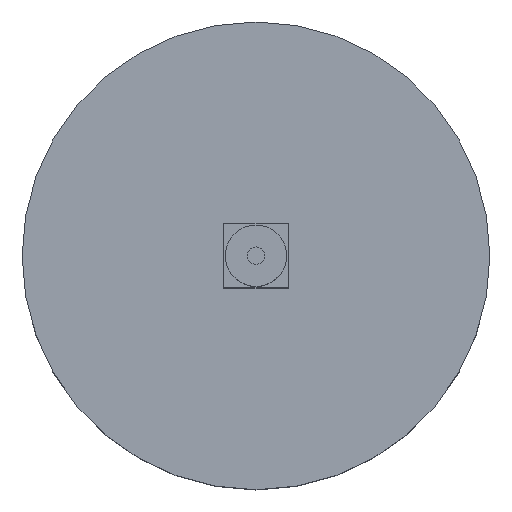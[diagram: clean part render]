
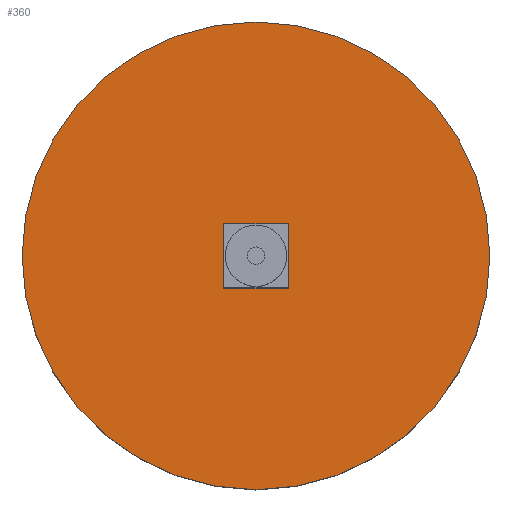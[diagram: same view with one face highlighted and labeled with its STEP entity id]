
A CAD part, top view. The second image highlights one B-rep face of the part: STEP entity #360.
In plain terms, the highlighted planar face has unit normal (0, 0, 1).
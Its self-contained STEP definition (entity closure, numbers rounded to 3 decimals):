
#6 = CARTESIAN_POINT ( 'NONE',  ( 0., 0., 50. ) ) ;
#30 = DIRECTION ( 'NONE',  ( 0., 0., 1. ) ) ;
#33 = CARTESIAN_POINT ( 'NONE',  ( -11., 11., 50. ) ) ;
#40 = CARTESIAN_POINT ( 'NONE',  ( -11., -11., 50. ) ) ;
#41 = DIRECTION ( 'NONE',  ( 1., 0., 0. ) ) ;
#44 = EDGE_CURVE ( 'NONE', #226, #362, #367, .T. ) ;
#51 = LINE ( 'NONE', #420, #81 ) ;
#63 = CARTESIAN_POINT ( 'NONE',  ( -11., 11., 50. ) ) ;
#64 = AXIS2_PLACEMENT_3D ( 'NONE', #6, #71, #344 ) ;
#71 = DIRECTION ( 'NONE',  ( 0., 0., 1. ) ) ;
#75 = CARTESIAN_POINT ( 'NONE',  ( 0., 0., 50. ) ) ;
#76 = DIRECTION ( 'NONE',  ( 1., 0., 0. ) ) ;
#81 = VECTOR ( 'NONE', #187, 1000. ) ;
#82 = VERTEX_POINT ( 'NONE', #434 ) ;
#89 = CARTESIAN_POINT ( 'NONE',  ( -80., 0., 50. ) ) ;
#103 = AXIS2_PLACEMENT_3D ( 'NONE', #381, #273, #76 ) ;
#119 = EDGE_CURVE ( 'NONE', #362, #160, #333, .T. ) ;
#125 = AXIS2_PLACEMENT_3D ( 'NONE', #75, #30, #41 ) ;
#147 = CARTESIAN_POINT ( 'NONE',  ( 11., 11., 50. ) ) ;
#160 = VERTEX_POINT ( 'NONE', #40 ) ;
#165 = CIRCLE ( 'NONE', #64, 80. ) ;
#166 = VERTEX_POINT ( 'NONE', #383 ) ;
#167 = CARTESIAN_POINT ( 'NONE',  ( -11., 11., 50. ) ) ;
#171 = DIRECTION ( 'NONE',  ( 0., 1., 0. ) ) ;
#187 = DIRECTION ( 'NONE',  ( 1., 0., 0. ) ) ;
#195 = DIRECTION ( 'NONE',  ( -1., 0., 0. ) ) ;
#219 = EDGE_CURVE ( 'NONE', #430, #82, #294, .T. ) ;
#220 = VECTOR ( 'NONE', #298, 1000. ) ;
#226 = VERTEX_POINT ( 'NONE', #147 ) ;
#254 = VECTOR ( 'NONE', #171, 1000. ) ;
#273 = DIRECTION ( 'NONE',  ( 0., 0., 1. ) ) ;
#279 = EDGE_LOOP ( 'NONE', ( #435, #371, #421, #356 ) ) ;
#294 = CIRCLE ( 'NONE', #103, 80. ) ;
#298 = DIRECTION ( 'NONE',  ( 0., -1., 0. ) ) ;
#299 = EDGE_CURVE ( 'NONE', #166, #226, #300, .T. ) ;
#300 = LINE ( 'NONE', #378, #254 ) ;
#311 = EDGE_CURVE ( 'NONE', #82, #430, #165, .T. ) ;
#314 = ORIENTED_EDGE ( 'NONE', *, *, #219, .T. ) ;
#318 = EDGE_LOOP ( 'NONE', ( #314, #417 ) ) ;
#330 = VECTOR ( 'NONE', #195, 1000. ) ;
#333 = LINE ( 'NONE', #167, #220 ) ;
#334 = FACE_OUTER_BOUND ( 'NONE', #318, .T. ) ;
#344 = DIRECTION ( 'NONE',  ( 1., 0., 0. ) ) ;
#356 = ORIENTED_EDGE ( 'NONE', *, *, #44, .F. ) ;
#360 = ADVANCED_FACE ( 'NONE', ( #413, #334 ), #380, .T. ) ;
#362 = VERTEX_POINT ( 'NONE', #33 ) ;
#367 = LINE ( 'NONE', #63, #330 ) ;
#371 = ORIENTED_EDGE ( 'NONE', *, *, #396, .F. ) ;
#378 = CARTESIAN_POINT ( 'NONE',  ( 11., 11., 50. ) ) ;
#380 = PLANE ( 'NONE',  #125 ) ;
#381 = CARTESIAN_POINT ( 'NONE',  ( 0., 0., 50. ) ) ;
#383 = CARTESIAN_POINT ( 'NONE',  ( 11., -11., 50. ) ) ;
#396 = EDGE_CURVE ( 'NONE', #160, #166, #51, .T. ) ;
#413 = FACE_BOUND ( 'NONE', #279, .T. ) ;
#417 = ORIENTED_EDGE ( 'NONE', *, *, #311, .T. ) ;
#420 = CARTESIAN_POINT ( 'NONE',  ( -11., -11., 50. ) ) ;
#421 = ORIENTED_EDGE ( 'NONE', *, *, #119, .F. ) ;
#430 = VERTEX_POINT ( 'NONE', #89 ) ;
#434 = CARTESIAN_POINT ( 'NONE',  ( 80., 0., 50. ) ) ;
#435 = ORIENTED_EDGE ( 'NONE', *, *, #299, .F. ) ;
